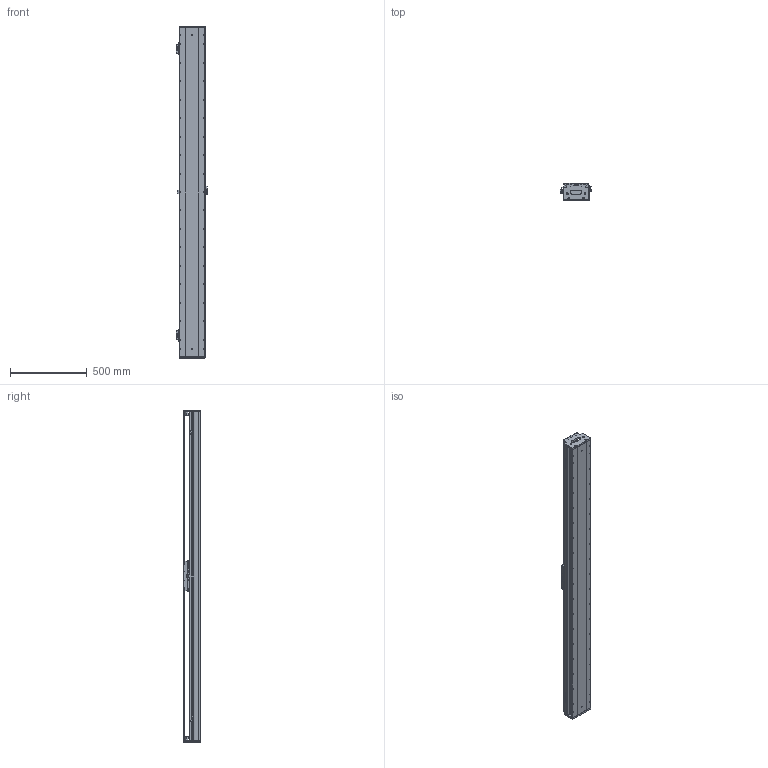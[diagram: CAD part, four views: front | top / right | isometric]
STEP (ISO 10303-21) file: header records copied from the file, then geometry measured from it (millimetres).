
FILE_DESCRIPTION (( 'STEP AP203' ), '1' );
FILE_NAME ('DKW168-C2-W090（T1860-L005-0.2）.STEP', '2021-09-10T01:00:33', ( '微软用户' ), ( '微软中国' ), 'SwSTEP 2.0', 'SolidWorks 2018', '' );
FILE_SCHEMA (( 'CONFIG_CONTROL_DESIGN' ));
Length unit declared in the file: millimetre
Products named in the file (22): RUS嫖掑喜; 10392-0001-002-00 詩湍裔啣; DKW168-C2-W090（T1860-L005-0.2）; Ru2; 砎蝶猾沭; RUS嫖掑郪璃; 10392-0001-003-00 詩湍嶺輸; pm-y65; 10392-0001-004-00 詩湍揤輸; 10980-0001-003-00 嫖萇羲壽嘐隅釱; 10279-0001-006-00 嶺輸菜輸; 10392-0001-001-00 菁釱; 嫖萇羲壽蚾饜极; DKW168 单轴模组-拉钢带组件; MSA20絳寢; DKW-SG-GYP-H-00 嫖萇覜茼え; CKM01-W090-TRL280; 10279-0001-003-00 傷啣; 嫖萇羲壽蚾饜极A; DKW168-RU-DTJ-00 RU2黍杅芛盓殤; DKW168-HXJ-00 遣喳砎蝶; C2-W090_00
Assembly tree (33 placements, depth 3):
  DKW168-C2-W090（T1860-L005-0.2）
    10392-0001-001-00 菁釱
    MSA20絳寢  x2
    DKW168 单轴模组-拉钢带组件
      10279-0001-003-00 傷啣  x2
      DKW168-HXJ-00 遣喳砎蝶  x4
      10392-0001-002-00 詩湍裔啣
      砎蝶猾沭  x2
      10392-0001-003-00 詩湍嶺輸  x2
      10392-0001-004-00 詩湍揤輸  x2
      10279-0001-006-00 嶺輸菜輸  x2
    CKM01-W090-TRL280
    DKW168-RU-DTJ-00 RU2黍杅芛盓殤
    RUS嫖掑郪璃
      RUS嫖掑喜
      Ru2
    嫖萇羲壽蚾饜极
      pm-y65
      10980-0001-003-00 嫖萇羲壽嘐隅釱
    DKW-SG-GYP-H-00 嫖萇覜茼え
    嫖萇羲壽蚾饜极A
      pm-y65  x2
      10980-0001-003-00 嫖萇羲壽嘐隅釱
    C2-W090_00
Bounding box: 202.3 x 109 x 2160 mm (x, y, z)
Volume: 14056637.4 mm3; surface area: 4173657.3 mm2
Topology: 48 solids, 97 shells, 4739 faces, 12401 edges, 7935 vertices
Faces by surface type: plane 2422, cylinder 1548, cone 458, bspline 279, torus 16, sphere 16
Entity records: 143813 total; most frequent: CARTESIAN_POINT 45841, ORIENTED_EDGE 19959, DIRECTION 19017, EDGE_CURVE 10020, VERTEX_POINT 6503, AXIS2_PLACEMENT_3D 6400, LINE 6217, VECTOR 6217
